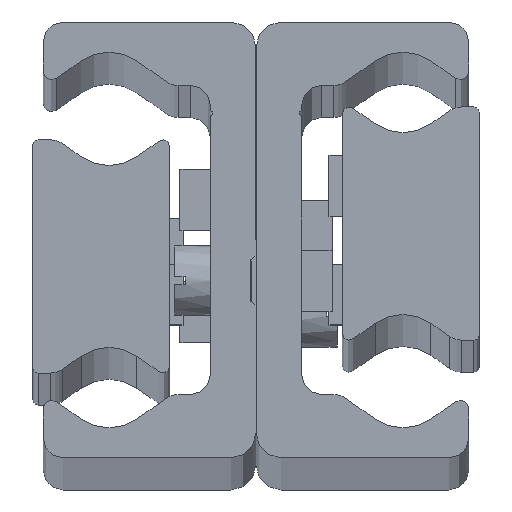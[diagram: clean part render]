
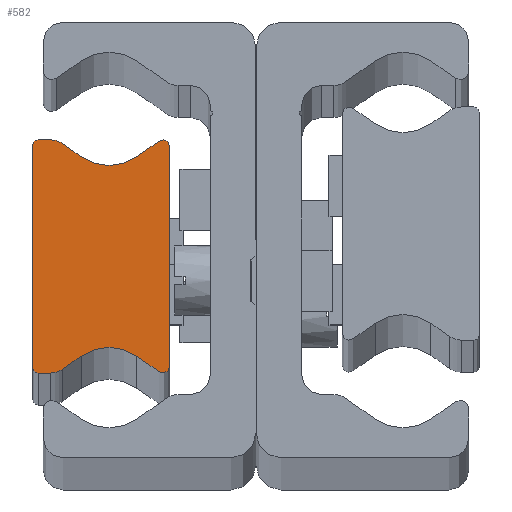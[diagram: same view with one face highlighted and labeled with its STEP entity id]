
A CAD part, top view. The second image highlights one B-rep face of the part: STEP entity #582.
In plain terms, the highlighted planar face has unit normal (0, 0, 1) as drawn and (0, 0, -1) by its records, which use the part's own axes.
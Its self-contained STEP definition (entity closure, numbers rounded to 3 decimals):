
#582 = ADVANCED_FACE( '', ( #1374 ), #1375, .F. );
#1374 = FACE_OUTER_BOUND( '', #2356, .T. );
#1375 = PLANE( '', #2357 );
#2356 = EDGE_LOOP( '', ( #3767, #3768, #3769, #3770, #3771, #3772, #3773, #3774, #3775, #3776, #3777, #3778, #3779, #3780, #3781, #3782 ) );
#2357 = AXIS2_PLACEMENT_3D( '', #3783, #3784, #3785 );
#3767 = ORIENTED_EDGE( '', *, *, #5135, .F. );
#3768 = ORIENTED_EDGE( '', *, *, #5151, .F. );
#3769 = ORIENTED_EDGE( '', *, *, #4867, .F. );
#3770 = ORIENTED_EDGE( '', *, *, #4887, .F. );
#3771 = ORIENTED_EDGE( '', *, *, #5152, .F. );
#3772 = ORIENTED_EDGE( '', *, *, #4706, .T. );
#3773 = ORIENTED_EDGE( '', *, *, #5153, .F. );
#3774 = ORIENTED_EDGE( '', *, *, #5154, .F. );
#3775 = ORIENTED_EDGE( '', *, *, #5116, .F. );
#3776 = ORIENTED_EDGE( '', *, *, #4855, .F. );
#3777 = ORIENTED_EDGE( '', *, *, #4973, .F. );
#3778 = ORIENTED_EDGE( '', *, *, #4806, .T. );
#3779 = ORIENTED_EDGE( '', *, *, #5025, .F. );
#3780 = ORIENTED_EDGE( '', *, *, #4778, .F. );
#3781 = ORIENTED_EDGE( '', *, *, #5148, .F. );
#3782 = ORIENTED_EDGE( '', *, *, #4862, .F. );
#3783 = CARTESIAN_POINT( '', ( 0.5, -11., -1810. ) );
#3784 = DIRECTION( '', ( 0., 0., 1. ) );
#3785 = DIRECTION( '', ( 1., 0., 0. ) );
#4706 = EDGE_CURVE( '', #5416, #5414, #5417, .T. );
#4778 = EDGE_CURVE( '', #5544, #5546, #5547, .T. );
#4806 = EDGE_CURVE( '', #5593, #5591, #5594, .T. );
#4855 = EDGE_CURVE( '', #5676, #5678, #5679, .T. );
#4862 = EDGE_CURVE( '', #5688, #5690, #5691, .T. );
#4867 = EDGE_CURVE( '', #5697, #5699, #5700, .T. );
#4887 = EDGE_CURVE( '', #5729, #5697, #5731, .T. );
#4973 = EDGE_CURVE( '', #5593, #5676, #5866, .T. );
#5025 = EDGE_CURVE( '', #5546, #5591, #5946, .T. );
#5116 = EDGE_CURVE( '', #5678, #6091, #6092, .T. );
#5135 = EDGE_CURVE( '', #6125, #5688, #6127, .T. );
#5148 = EDGE_CURVE( '', #5690, #5544, #6145, .T. );
#5151 = EDGE_CURVE( '', #5699, #6125, #6148, .T. );
#5152 = EDGE_CURVE( '', #5416, #5729, #6149, .T. );
#5153 = EDGE_CURVE( '', #6150, #5414, #6151, .T. );
#5154 = EDGE_CURVE( '', #6091, #6150, #6152, .T. );
#5414 = VERTEX_POINT( '', #6471 );
#5416 = VERTEX_POINT( '', #6474 );
#5417 = CIRCLE( '', #6475, 4.763 );
#5544 = VERTEX_POINT( '', #6617 );
#5546 = VERTEX_POINT( '', #6620 );
#5547 = CIRCLE( '', #6621, 2. );
#5591 = VERTEX_POINT( '', #6680 );
#5593 = VERTEX_POINT( '', #6683 );
#5594 = CIRCLE( '', #6684, 4.763 );
#5676 = VERTEX_POINT( '', #6795 );
#5678 = VERTEX_POINT( '', #6798 );
#5679 = CIRCLE( '', #6799, 0.668 );
#5688 = VERTEX_POINT( '', #6809 );
#5690 = VERTEX_POINT( '', #6812 );
#5691 = CIRCLE( '', #6813, 0.5 );
#5697 = VERTEX_POINT( '', #6821 );
#5699 = VERTEX_POINT( '', #6824 );
#5700 = LINE( '', #6825, #6826 );
#5729 = VERTEX_POINT( '', #6859 );
#5731 = CIRCLE( '', #6862, 2. );
#5866 = LINE( '', #7030, #7031 );
#5946 = LINE( '', #7123, #7124 );
#6091 = VERTEX_POINT( '', #7283 );
#6092 = LINE( '', #7284, #7285 );
#6125 = VERTEX_POINT( '', #7320 );
#6127 = LINE( '', #7323, #7324 );
#6145 = LINE( '', #7348, #7349 );
#6148 = CIRCLE( '', #7352, 0.5 );
#6149 = LINE( '', #7353, #7354 );
#6150 = VERTEX_POINT( '', #7355 );
#6151 = LINE( '', #7356, #7357 );
#6152 = CIRCLE( '', #7358, 0.668 );
#6471 = CARTESIAN_POINT( '', ( 10.232, 9.827, -1810. ) );
#6474 = CARTESIAN_POINT( '', ( 4.768, 9.827, -1810. ) );
#6475 = AXIS2_PLACEMENT_3D( '', #7707, #7708, #7709 );
#6617 = CARTESIAN_POINT( '', ( 1.748, -11.5, -1810. ) );
#6620 = CARTESIAN_POINT( '', ( 2.895, -11.138, -1810. ) );
#6621 = AXIS2_PLACEMENT_3D( '', #7849, #7850, #7851 );
#6680 = CARTESIAN_POINT( '', ( 4.768, -9.827, -1810. ) );
#6683 = CARTESIAN_POINT( '', ( 10.232, -9.827, -1810. ) );
#6684 = AXIS2_PLACEMENT_3D( '', #7880, #7881, #7882 );
#6795 = CARTESIAN_POINT( '', ( 12.449, -11.379, -1810. ) );
#6798 = CARTESIAN_POINT( '', ( 13.5, -10.832, -1810. ) );
#6799 = AXIS2_PLACEMENT_3D( '', #7934, #7935, #7936 );
#6809 = CARTESIAN_POINT( '', ( 0., -11., -1810. ) );
#6812 = CARTESIAN_POINT( '', ( 0.5, -11.5, -1810. ) );
#6813 = AXIS2_PLACEMENT_3D( '', #7945, #7946, #7947 );
#6821 = CARTESIAN_POINT( '', ( 1.748, 11.5, -1810. ) );
#6824 = CARTESIAN_POINT( '', ( 0.5, 11.5, -1810. ) );
#6825 = CARTESIAN_POINT( '', ( 1.748, 11.5, -1810. ) );
#6826 = VECTOR( '', #7951, 1000. );
#6859 = CARTESIAN_POINT( '', ( 2.895, 11.138, -1810. ) );
#6862 = AXIS2_PLACEMENT_3D( '', #7981, #7982, #7983 );
#7030 = CARTESIAN_POINT( '', ( 10.232, -9.827, -1810. ) );
#7031 = VECTOR( '', #8092, 1000. );
#7123 = CARTESIAN_POINT( '', ( 2.895, -11.138, -1810. ) );
#7124 = VECTOR( '', #8183, 1000. );
#7283 = CARTESIAN_POINT( '', ( 13.5, 10.832, -1810. ) );
#7284 = CARTESIAN_POINT( '', ( 13.5, -10.832, -1810. ) );
#7285 = VECTOR( '', #8342, 1000. );
#7320 = CARTESIAN_POINT( '', ( 0., 11., -1810. ) );
#7323 = CARTESIAN_POINT( '', ( 0., 11., -1810. ) );
#7324 = VECTOR( '', #8388, 1000. );
#7348 = CARTESIAN_POINT( '', ( 0.5, -11.5, -1810. ) );
#7349 = VECTOR( '', #8401, 1000. );
#7352 = AXIS2_PLACEMENT_3D( '', #8402, #8403, #8404 );
#7353 = CARTESIAN_POINT( '', ( 4.768, 9.827, -1810. ) );
#7354 = VECTOR( '', #8405, 1000. );
#7355 = CARTESIAN_POINT( '', ( 12.449, 11.379, -1810. ) );
#7356 = CARTESIAN_POINT( '', ( 12.449, 11.379, -1810. ) );
#7357 = VECTOR( '', #8406, 1000. );
#7358 = AXIS2_PLACEMENT_3D( '', #8407, #8408, #8409 );
#7707 = CARTESIAN_POINT( '', ( 7.5, 13.729, -1810. ) );
#7708 = DIRECTION( '', ( 0., 0., 1. ) );
#7709 = DIRECTION( '', ( 1., 0., 0. ) );
#7849 = CARTESIAN_POINT( '', ( 1.748, -9.5, -1810. ) );
#7850 = DIRECTION( '', ( 0., 0., 1. ) );
#7851 = DIRECTION( '', ( 1., 0., 0. ) );
#7880 = CARTESIAN_POINT( '', ( 7.5, -13.729, -1810. ) );
#7881 = DIRECTION( '', ( 0., 0., 1. ) );
#7882 = DIRECTION( '', ( 1., 0., 0. ) );
#7934 = CARTESIAN_POINT( '', ( 12.832, -10.832, -1810. ) );
#7935 = DIRECTION( '', ( 0., 0., 1. ) );
#7936 = DIRECTION( '', ( 1., 0., 0. ) );
#7945 = CARTESIAN_POINT( '', ( 0.5, -11., -1810. ) );
#7946 = DIRECTION( '', ( 0., 0., 1. ) );
#7947 = DIRECTION( '', ( 1., 0., 0. ) );
#7951 = DIRECTION( '', ( -1., 0., 0. ) );
#7981 = CARTESIAN_POINT( '', ( 1.748, 9.5, -1810. ) );
#7982 = DIRECTION( '', ( 0., 0., 1. ) );
#7983 = DIRECTION( '', ( 1., 0., 0. ) );
#8092 = DIRECTION( '', ( 0.819, -0.574, 0. ) );
#8183 = DIRECTION( '', ( 0.819, 0.574, 0. ) );
#8342 = DIRECTION( '', ( 0., 1., 0. ) );
#8388 = DIRECTION( '', ( 0., -1., 0. ) );
#8401 = DIRECTION( '', ( 1., 0., 0. ) );
#8402 = CARTESIAN_POINT( '', ( 0.5, 11., -1810. ) );
#8403 = DIRECTION( '', ( 0., 0., 1. ) );
#8404 = DIRECTION( '', ( 1., 0., 0. ) );
#8405 = DIRECTION( '', ( -0.819, 0.574, 0. ) );
#8406 = DIRECTION( '', ( -0.819, -0.574, 0. ) );
#8407 = CARTESIAN_POINT( '', ( 12.832, 10.832, -1810. ) );
#8408 = DIRECTION( '', ( 0., 0., 1. ) );
#8409 = DIRECTION( '', ( 1., 0., 0. ) );
